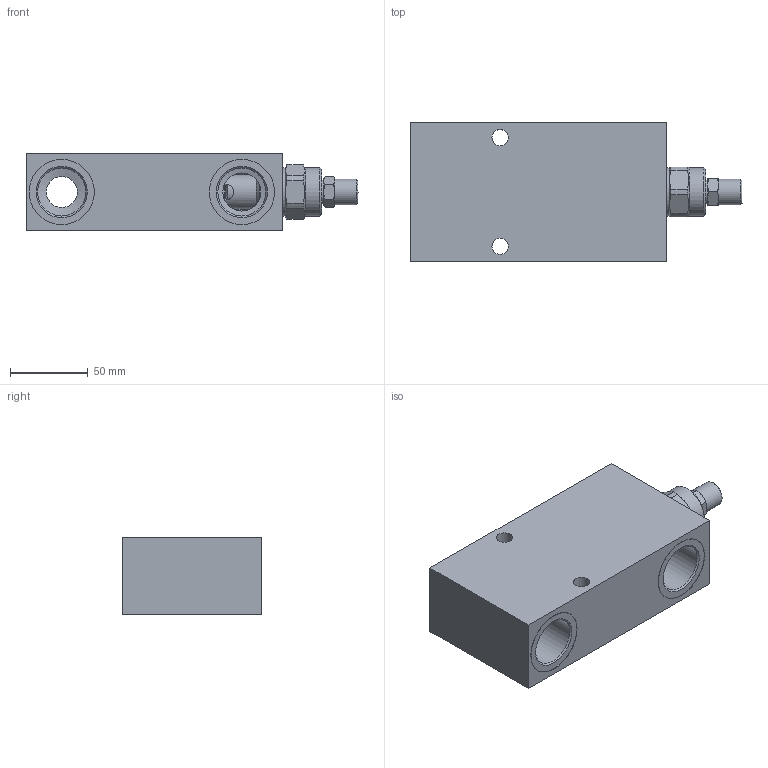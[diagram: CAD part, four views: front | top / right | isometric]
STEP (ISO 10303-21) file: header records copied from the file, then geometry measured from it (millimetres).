
FILE_DESCRIPTION(/* description */ (''),/* implementation_level */ '2;1');
FILE_NAME(/* name */ 'C:\Users\fabio.radici\Desktop\001-267-0X0_Shrinkwrap.stp',/* time_stamp */ '2021-03-29T08:40:50+02:00',/* author */ ('fabio.radici'),/* organization */ (''),/* preprocessor_version */ 'ST-DEVELOPER v18.1',/* originating_system */ 'Autodesk Inventor 2021',/* authorisation */ '');
FILE_SCHEMA (('AUTOMOTIVE_DESIGN { 1 0 10303 214 3 1 1 }'));
Length unit declared in the file: millimetre
Products named in the file (1): 001-267-0X0_Shrinkwrap
Bounding box: 213.8 x 90 x 50 mm (x, y, z)
Surface area: 79207 mm2 (no closed solid volume)
Topology: 0 solids, 9 shells, 81 faces, 229 edges, 155 vertices
Faces by surface type: cylinder 30, cone 26, plane 25
Full cylindrical faces by diameter (mm): 6 x1, 10.5 x2, 14 x1, 14.5 x1, 16 x1, 16.5 x1, 17 x1, 17.3 x1, 22 x1, 24.5 x2, 26.441 x1, 30.931 x4, 31 x2, 42 x4
Entity records: 2951 total; most frequent: CARTESIAN_POINT 693, DIRECTION 456, ORIENTED_EDGE 410, EDGE_CURVE 228, AXIS2_PLACEMENT_3D 187, VERTEX_POINT 155, CIRCLE 102, EDGE_LOOP 97
